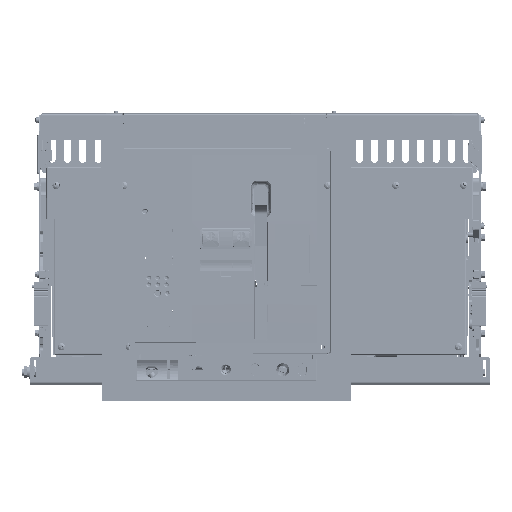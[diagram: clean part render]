
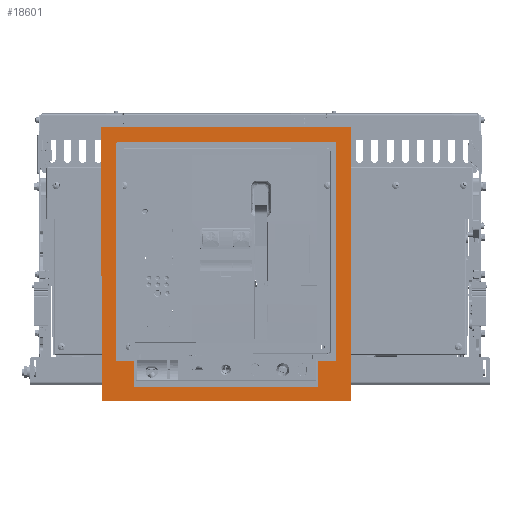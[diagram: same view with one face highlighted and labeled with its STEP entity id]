
A CAD part, front view. The second image highlights one B-rep face of the part: STEP entity #18601.
In plain terms, the highlighted planar face has unit normal (0, -1, 0).
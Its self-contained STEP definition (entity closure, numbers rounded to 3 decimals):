
#10782 = EDGE_CURVE ( 'NONE', #806377, #411961, #174367, .T. ) ;
#15356 = ORIENTED_EDGE ( 'NONE', *, *, #42683, .F. ) ;
#15789 = CARTESIAN_POINT ( 'NONE',  ( 189.59, 15.259, -423.321 ) ) ;
#17052 = VERTEX_POINT ( 'NONE', #732479 ) ;
#18601 = ADVANCED_FACE ( 'NONE', ( #185793, #943665 ), #653488, .F. ) ;
#27686 = VECTOR ( 'NONE', #429449, 1000. ) ;
#34676 = CARTESIAN_POINT ( 'NONE',  ( 556.615, 15.259, -492.188 ) ) ;
#35347 = DIRECTION ( 'NONE',  ( 1., 0., 0. ) ) ;
#42683 = EDGE_CURVE ( 'NONE', #317542, #858741, #329800, .T. ) ;
#43023 = CARTESIAN_POINT ( 'NONE',  ( 159.457, 15.256, -55.832 ) ) ;
#56394 = EDGE_CURVE ( 'NONE', #531836, #317542, #179066, .T. ) ;
#61734 = LINE ( 'NONE', #376861, #337457 ) ;
#64319 = LINE ( 'NONE', #79364, #177693 ) ;
#68211 = ORIENTED_EDGE ( 'NONE', *, *, #755920, .F. ) ;
#75943 = LINE ( 'NONE', #386047, #532921 ) ;
#79364 = CARTESIAN_POINT ( 'NONE',  ( 189.606, 15.259, -467.321 ) ) ;
#96375 = CARTESIAN_POINT ( 'NONE',  ( 161.957, 15.256, -55.831 ) ) ;
#97633 = VECTOR ( 'NONE', #797591, 1000. ) ;
#103058 = DIRECTION ( 'NONE',  ( 1., 0., 0. ) ) ;
#108030 = CARTESIAN_POINT ( 'NONE',  ( 134.615, 15.259, -492.341 ) ) ;
#119600 = EDGE_CURVE ( 'NONE', #265718, #531836, #874507, .T. ) ;
#133206 = DIRECTION ( 'NONE',  ( 0., 0., 1. ) ) ;
#137801 = ORIENTED_EDGE ( 'NONE', *, *, #226819, .F. ) ;
#139256 = VECTOR ( 'NONE', #455500, 1000. ) ;
#145356 = LINE ( 'NONE', #384190, #139256 ) ;
#145376 = CARTESIAN_POINT ( 'NONE',  ( 134.615, 15.259, -492.341 ) ) ;
#150819 = ORIENTED_EDGE ( 'NONE', *, *, #856842, .F. ) ;
#174367 = LINE ( 'NONE', #794637, #635578 ) ;
#177693 = VECTOR ( 'NONE', #547120, 1000. ) ;
#179066 = LINE ( 'NONE', #961903, #558502 ) ;
#182402 = CARTESIAN_POINT ( 'NONE',  ( 531.457, 15.256, -55.697 ) ) ;
#184217 = EDGE_CURVE ( 'NONE', #193829, #318402, #768416, .T. ) ;
#185793 = FACE_BOUND ( 'NONE', #516273, .T. ) ;
#187988 = CARTESIAN_POINT ( 'NONE',  ( 134.447, 15.256, -28.341 ) ) ;
#192064 = VERTEX_POINT ( 'NONE', #453059 ) ;
#193829 = VERTEX_POINT ( 'NONE', #608363 ) ;
#210499 = ORIENTED_EDGE ( 'NONE', *, *, #56394, .F. ) ;
#214525 = CARTESIAN_POINT ( 'NONE',  ( 528.957, 15.256, -55.698 ) ) ;
#217898 = VECTOR ( 'NONE', #866618, 1000. ) ;
#221672 = LINE ( 'NONE', #145376, #235181 ) ;
#223296 = ORIENTED_EDGE ( 'NONE', *, *, #613030, .F. ) ;
#226819 = EDGE_CURVE ( 'NONE', #193829, #497082, #316034, .T. ) ;
#235181 = VECTOR ( 'NONE', #455519, 1000. ) ;
#241352 = VECTOR ( 'NONE', #458584, 1000. ) ;
#247281 = ORIENTED_EDGE ( 'NONE', *, *, #10782, .F. ) ;
#254797 = CARTESIAN_POINT ( 'NONE',  ( 189.606, 15.259, -467.321 ) ) ;
#265718 = VERTEX_POINT ( 'NONE', #374755 ) ;
#275578 = EDGE_CURVE ( 'NONE', #192064, #318402, #75943, .T. ) ;
#300605 = DIRECTION ( 'NONE',  ( 0., 0., -1. ) ) ;
#316034 = LINE ( 'NONE', #549904, #241352 ) ;
#317542 = VERTEX_POINT ( 'NONE', #972705 ) ;
#318402 = VERTEX_POINT ( 'NONE', #182402 ) ;
#329800 = LINE ( 'NONE', #34676, #97633 ) ;
#331523 = CIRCLE ( 'NONE', #428819, 2.5 ) ;
#337457 = VECTOR ( 'NONE', #300605, 1000. ) ;
#353175 = LINE ( 'NONE', #43023, #27686 ) ;
#374755 = CARTESIAN_POINT ( 'NONE',  ( 134.447, 15.256, -28.341 ) ) ;
#376861 = CARTESIAN_POINT ( 'NONE',  ( 189.59, 15.259, -423.321 ) ) ;
#384190 = CARTESIAN_POINT ( 'NONE',  ( 501.606, 15.259, -467.208 ) ) ;
#386047 = CARTESIAN_POINT ( 'NONE',  ( 531.59, 15.259, -423.197 ) ) ;
#395423 = ORIENTED_EDGE ( 'NONE', *, *, #456942, .T. ) ;
#406306 = EDGE_CURVE ( 'NONE', #604062, #806377, #353175, .T. ) ;
#411961 = VERTEX_POINT ( 'NONE', #15789 ) ;
#428819 = AXIS2_PLACEMENT_3D ( 'NONE', #96375, #889236, #960535 ) ;
#429449 = DIRECTION ( 'NONE',  ( 0., 0., -1. ) ) ;
#447398 = ORIENTED_EDGE ( 'NONE', *, *, #816010, .F. ) ;
#453059 = CARTESIAN_POINT ( 'NONE',  ( 531.59, 15.259, -423.197 ) ) ;
#455500 = DIRECTION ( 'NONE',  ( 0., 0., 1. ) ) ;
#455519 = DIRECTION ( 'NONE',  ( 0., 0., 1. ) ) ;
#456942 = EDGE_CURVE ( 'NONE', #604062, #497082, #331523, .T. ) ;
#458584 = DIRECTION ( 'NONE',  ( -1., 0., 0. ) ) ;
#480940 = DIRECTION ( 'NONE',  ( 0., 1., 0. ) ) ;
#495586 = ORIENTED_EDGE ( 'NONE', *, *, #406306, .F. ) ;
#497082 = VERTEX_POINT ( 'NONE', #715949 ) ;
#505865 = EDGE_CURVE ( 'NONE', #17052, #792209, #145356, .T. ) ;
#516273 = EDGE_LOOP ( 'NONE', ( #223296, #944317, #150819, #68211, #247281, #495586, #395423, #137801, #970213, #649898 ) ) ;
#519011 = EDGE_LOOP ( 'NONE', ( #630483, #447398, #15356, #210499 ) ) ;
#531836 = VERTEX_POINT ( 'NONE', #597806 ) ;
#532921 = VECTOR ( 'NONE', #807520, 1000. ) ;
#541469 = LINE ( 'NONE', #795370, #217898 ) ;
#547120 = DIRECTION ( 'NONE',  ( 1., 0., 0. ) ) ;
#549904 = CARTESIAN_POINT ( 'NONE',  ( 528.956, 15.256, -53.198 ) ) ;
#558502 = VECTOR ( 'NONE', #661776, 1000. ) ;
#580719 = AXIS2_PLACEMENT_3D ( 'NONE', #877330, #480940, #963614 ) ;
#597806 = CARTESIAN_POINT ( 'NONE',  ( 556.447, 15.256, -28.188 ) ) ;
#604062 = VERTEX_POINT ( 'NONE', #664846 ) ;
#608363 = CARTESIAN_POINT ( 'NONE',  ( 528.956, 15.256, -53.198 ) ) ;
#613030 = EDGE_CURVE ( 'NONE', #792209, #192064, #541469, .T. ) ;
#630483 = ORIENTED_EDGE ( 'NONE', *, *, #119600, .F. ) ;
#635578 = VECTOR ( 'NONE', #103058, 1000. ) ;
#649898 = ORIENTED_EDGE ( 'NONE', *, *, #275578, .F. ) ;
#653488 = PLANE ( 'NONE',  #580719 ) ;
#661776 = DIRECTION ( 'NONE',  ( 0., 0., -1. ) ) ;
#664846 = CARTESIAN_POINT ( 'NONE',  ( 159.457, 15.256, -55.832 ) ) ;
#715949 = CARTESIAN_POINT ( 'NONE',  ( 161.956, 15.256, -53.331 ) ) ;
#732479 = CARTESIAN_POINT ( 'NONE',  ( 501.606, 15.259, -467.208 ) ) ;
#755920 = EDGE_CURVE ( 'NONE', #411961, #973184, #61734, .T. ) ;
#768416 = CIRCLE ( 'NONE', #849026, 2.5 ) ;
#787407 = CARTESIAN_POINT ( 'NONE',  ( 501.59, 15.259, -423.208 ) ) ;
#792209 = VERTEX_POINT ( 'NONE', #787407 ) ;
#794637 = CARTESIAN_POINT ( 'NONE',  ( 159.59, 15.259, -423.332 ) ) ;
#795370 = CARTESIAN_POINT ( 'NONE',  ( 501.59, 15.259, -423.208 ) ) ;
#797591 = DIRECTION ( 'NONE',  ( -1., 0., 0. ) ) ;
#799412 = CARTESIAN_POINT ( 'NONE',  ( 159.59, 15.259, -423.332 ) ) ;
#806377 = VERTEX_POINT ( 'NONE', #799412 ) ;
#807520 = DIRECTION ( 'NONE',  ( 0., 0., 1. ) ) ;
#816010 = EDGE_CURVE ( 'NONE', #858741, #265718, #221672, .T. ) ;
#829794 = DIRECTION ( 'NONE',  ( 0., 1., 0. ) ) ;
#849026 = AXIS2_PLACEMENT_3D ( 'NONE', #214525, #829794, #133206 ) ;
#856842 = EDGE_CURVE ( 'NONE', #973184, #17052, #64319, .T. ) ;
#858741 = VERTEX_POINT ( 'NONE', #108030 ) ;
#866618 = DIRECTION ( 'NONE',  ( 1., 0., 0. ) ) ;
#874507 = LINE ( 'NONE', #187988, #971810 ) ;
#877330 = CARTESIAN_POINT ( 'NONE',  ( 345.531, 15.258, -260.265 ) ) ;
#889236 = DIRECTION ( 'NONE',  ( 0., 1., 0. ) ) ;
#943665 = FACE_OUTER_BOUND ( 'NONE', #519011, .T. ) ;
#944317 = ORIENTED_EDGE ( 'NONE', *, *, #505865, .F. ) ;
#960535 = DIRECTION ( 'NONE',  ( -1., 0., 0. ) ) ;
#961903 = CARTESIAN_POINT ( 'NONE',  ( 556.447, 15.256, -28.188 ) ) ;
#963614 = DIRECTION ( 'NONE',  ( -1., 0., 0. ) ) ;
#970213 = ORIENTED_EDGE ( 'NONE', *, *, #184217, .T. ) ;
#971810 = VECTOR ( 'NONE', #35347, 1000. ) ;
#972705 = CARTESIAN_POINT ( 'NONE',  ( 556.615, 15.259, -492.188 ) ) ;
#973184 = VERTEX_POINT ( 'NONE', #254797 ) ;
